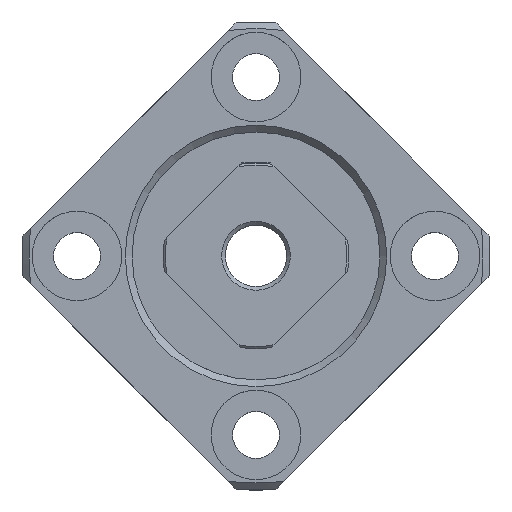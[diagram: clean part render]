
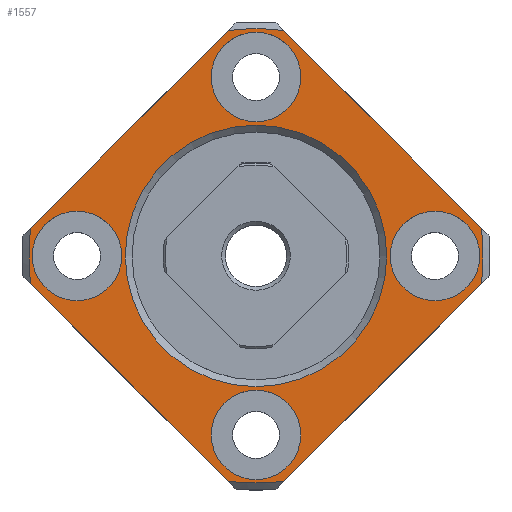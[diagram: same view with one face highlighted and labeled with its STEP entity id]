
A CAD part, top view. The second image highlights one B-rep face of the part: STEP entity #1557.
In plain terms, the highlighted planar face has unit normal (0, 0, 1) as drawn and (-1, 0, 0) by its records, which use the part's own axes.
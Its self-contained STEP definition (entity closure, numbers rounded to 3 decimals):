
#138=LINE('',#2399,#222);
#139=LINE('',#2404,#223);
#140=LINE('',#2408,#224);
#141=LINE('',#2412,#225);
#222=VECTOR('',#1911,1000.);
#223=VECTOR('',#1914,1000.);
#224=VECTOR('',#1917,1000.);
#225=VECTOR('',#1920,1000.);
#306=ORIENTED_EDGE('',*,*,#734,.T.);
#307=ORIENTED_EDGE('',*,*,#735,.T.);
#308=ORIENTED_EDGE('',*,*,#736,.T.);
#309=ORIENTED_EDGE('',*,*,#737,.T.);
#310=ORIENTED_EDGE('',*,*,#738,.F.);
#311=ORIENTED_EDGE('',*,*,#739,.F.);
#312=ORIENTED_EDGE('',*,*,#740,.F.);
#313=ORIENTED_EDGE('',*,*,#741,.F.);
#314=ORIENTED_EDGE('',*,*,#742,.F.);
#315=ORIENTED_EDGE('',*,*,#743,.F.);
#316=ORIENTED_EDGE('',*,*,#744,.F.);
#317=ORIENTED_EDGE('',*,*,#745,.F.);
#318=ORIENTED_EDGE('',*,*,#746,.T.);
#734=EDGE_CURVE('',#948,#948,#1106,.T.);
#735=EDGE_CURVE('',#949,#949,#1107,.T.);
#736=EDGE_CURVE('',#950,#950,#1108,.T.);
#737=EDGE_CURVE('',#951,#951,#1109,.T.);
#738=EDGE_CURVE('',#952,#953,#138,.T.);
#739=EDGE_CURVE('',#954,#952,#1110,.T.);
#740=EDGE_CURVE('',#955,#954,#139,.T.);
#741=EDGE_CURVE('',#956,#955,#1111,.T.);
#742=EDGE_CURVE('',#957,#956,#140,.T.);
#743=EDGE_CURVE('',#958,#957,#1112,.T.);
#744=EDGE_CURVE('',#959,#958,#141,.T.);
#745=EDGE_CURVE('',#953,#959,#1113,.T.);
#746=EDGE_CURVE('',#960,#960,#1114,.T.);
#948=VERTEX_POINT('',#2392);
#949=VERTEX_POINT('',#2394);
#950=VERTEX_POINT('',#2396);
#951=VERTEX_POINT('',#2398);
#952=VERTEX_POINT('',#2400);
#953=VERTEX_POINT('',#2401);
#954=VERTEX_POINT('',#2403);
#955=VERTEX_POINT('',#2405);
#956=VERTEX_POINT('',#2407);
#957=VERTEX_POINT('',#2409);
#958=VERTEX_POINT('',#2411);
#959=VERTEX_POINT('',#2413);
#960=VERTEX_POINT('',#2416);
#1106=CIRCLE('',#1698,3.25);
#1107=CIRCLE('',#1699,3.25);
#1108=CIRCLE('',#1700,3.25);
#1109=CIRCLE('',#1701,3.25);
#1110=CIRCLE('',#1702,16.5);
#1111=CIRCLE('',#1703,16.5);
#1112=CIRCLE('',#1704,16.5);
#1113=CIRCLE('',#1705,16.5);
#1114=CIRCLE('',#1706,9.5);
#1199=EDGE_LOOP('',(#306));
#1200=EDGE_LOOP('',(#307));
#1201=EDGE_LOOP('',(#308));
#1202=EDGE_LOOP('',(#309));
#1203=EDGE_LOOP('',(#310,#311,#312,#313,#314,#315,#316,#317));
#1204=EDGE_LOOP('',(#318));
#1357=FACE_BOUND('',#1199,.T.);
#1358=FACE_BOUND('',#1200,.T.);
#1359=FACE_BOUND('',#1201,.T.);
#1360=FACE_BOUND('',#1202,.T.);
#1361=FACE_BOUND('',#1203,.T.);
#1362=FACE_BOUND('',#1204,.T.);
#1515=PLANE('',#1697);
#1557=ADVANCED_FACE('',(#1357,#1358,#1359,#1360,#1361,#1362),#1515,.F.);
#1697=AXIS2_PLACEMENT_3D('',#2390,#1901,#1902);
#1698=AXIS2_PLACEMENT_3D('',#2391,#1903,#1904);
#1699=AXIS2_PLACEMENT_3D('',#2393,#1905,#1906);
#1700=AXIS2_PLACEMENT_3D('',#2395,#1907,#1908);
#1701=AXIS2_PLACEMENT_3D('',#2397,#1909,#1910);
#1702=AXIS2_PLACEMENT_3D('',#2402,#1912,#1913);
#1703=AXIS2_PLACEMENT_3D('',#2406,#1915,#1916);
#1704=AXIS2_PLACEMENT_3D('',#2410,#1918,#1919);
#1705=AXIS2_PLACEMENT_3D('',#2414,#1921,#1922);
#1706=AXIS2_PLACEMENT_3D('',#2415,#1923,#1924);
#1901=DIRECTION('',(1.,0.,0.));
#1902=DIRECTION('',(0.,0.,-1.));
#1903=DIRECTION('',(1.,0.,0.));
#1904=DIRECTION('',(0.,0.,-1.));
#1905=DIRECTION('',(1.,0.,0.));
#1906=DIRECTION('',(0.,0.,-1.));
#1907=DIRECTION('',(1.,0.,0.));
#1908=DIRECTION('',(0.,0.,-1.));
#1909=DIRECTION('',(1.,0.,0.));
#1910=DIRECTION('',(0.,0.,-1.));
#1911=DIRECTION('',(0.,-0.707,0.707));
#1912=DIRECTION('',(1.,0.,0.));
#1913=DIRECTION('',(0.,0.,-1.));
#1914=DIRECTION('',(0.,0.707,0.707));
#1915=DIRECTION('',(1.,0.,0.));
#1916=DIRECTION('',(0.,0.,-1.));
#1917=DIRECTION('',(0.,0.707,-0.707));
#1918=DIRECTION('',(1.,0.,0.));
#1919=DIRECTION('',(0.,0.,-1.));
#1920=DIRECTION('',(0.,-0.707,-0.707));
#1921=DIRECTION('',(1.,0.,0.));
#1922=DIRECTION('',(0.,0.,-1.));
#1923=DIRECTION('',(1.,0.,0.));
#1924=DIRECTION('',(0.,0.,-1.));
#2390=CARTESIAN_POINT('',(-6.,0.,0.));
#2391=CARTESIAN_POINT('',(-6.,0.,13.));
#2392=CARTESIAN_POINT('',(-6.,0.,9.75));
#2393=CARTESIAN_POINT('',(-6.,-13.,0.));
#2394=CARTESIAN_POINT('',(-6.,-13.,-3.25));
#2395=CARTESIAN_POINT('',(-6.,0.,-13.));
#2396=CARTESIAN_POINT('',(-6.,0.,-16.25));
#2397=CARTESIAN_POINT('',(-6.,13.,0.));
#2398=CARTESIAN_POINT('',(-6.,13.,-3.25));
#2399=CARTESIAN_POINT('',(-6.,18.385,0.));
#2400=CARTESIAN_POINT('',(-6.,16.377,2.007));
#2401=CARTESIAN_POINT('',(-6.,2.007,16.377));
#2402=CARTESIAN_POINT('',(-6.,0.,0.));
#2403=CARTESIAN_POINT('',(-6.,16.377,-2.007));
#2404=CARTESIAN_POINT('',(-6.,0.,-18.385));
#2405=CARTESIAN_POINT('',(-6.,2.007,-16.377));
#2406=CARTESIAN_POINT('',(-6.,0.,0.));
#2407=CARTESIAN_POINT('',(-6.,-2.007,-16.377));
#2408=CARTESIAN_POINT('',(-6.,-18.385,0.));
#2409=CARTESIAN_POINT('',(-6.,-16.377,-2.007));
#2410=CARTESIAN_POINT('',(-6.,0.,0.));
#2411=CARTESIAN_POINT('',(-6.,-16.377,2.007));
#2412=CARTESIAN_POINT('',(-6.,0.,18.385));
#2413=CARTESIAN_POINT('',(-6.,-2.007,16.377));
#2414=CARTESIAN_POINT('',(-6.,0.,0.));
#2415=CARTESIAN_POINT('',(-6.,0.,0.));
#2416=CARTESIAN_POINT('',(-6.,0.,-9.5));
